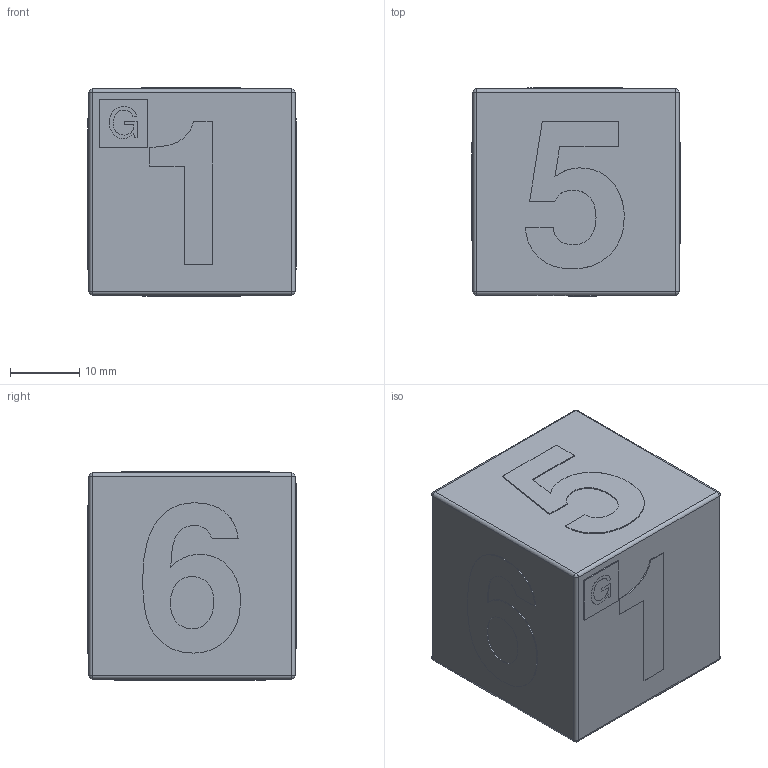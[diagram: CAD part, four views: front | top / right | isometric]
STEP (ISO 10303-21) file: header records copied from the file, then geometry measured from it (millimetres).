
FILE_DESCRIPTION(('Open CASCADE Model'),'2;1');
FILE_NAME('Open CASCADE Shape Model','2025-09-14T20:47:13',('Author'),( 'Open CASCADE'),'Open CASCADE STEP processor 7.8','Open CASCADE 7.8' ,'Unknown');
FILE_SCHEMA(('AUTOMOTIVE_DESIGN { 1 0 10303 214 1 1 1 1 }'));
Length unit declared in the file: millimetre
Products named in the file (20): 9c05f492-91a3-11f0-88d2-1c1b0deae66b; 9c05f640-91a3-11f0-88d2-1c1b0deae66b; 9c05f640-91a3-11f0-88d2-1c1b0deae66b_part; 9c096438-91a3-11f0-88d2-1c1b0deae66b; 9c096438-91a3-11f0-88d2-1c1b0deae66b_part; 9c0b5824-91a3-11f0-88d2-1c1b0deae66b; 9c0b5824-91a3-11f0-88d2-1c1b0deae66b_part; 9c0cea54-91a3-11f0-88d2-1c1b0deae66b; 9c0cea54-91a3-11f0-88d2-1c1b0deae66b_part; 9c0ecc52-91a3-11f0-88d2-1c1b0deae66b; 9c0ecc52-91a3-11f0-88d2-1c1b0deae66b_part; 9c10400a-91a3-11f0-88d2-1c1b0deae66b; 9c10400a-91a3-11f0-88d2-1c1b0deae66b_part; 9c120c96-91a3-11f0-88d2-1c1b0deae66b; 9c120c96-91a3-11f0-88d2-1c1b0deae66b_part; 9c200198-91a3-11f0-88d2-1c1b0deae66b; 9c200198-91a3-11f0-88d2-1c1b0deae66b_part; 9c20030a-91a3-11f0-88d2-1c1b0deae66b; 9c20030a-91a3-11f0-88d2-1c1b0deae66b_part
Assembly tree (19 placements, depth 4):
  9c05f492-91a3-11f0-88d2-1c1b0deae66b
    9c05f492-91a3-11f0-88d2-1c1b0deae66b
      9c05f640-91a3-11f0-88d2-1c1b0deae66b
        9c05f640-91a3-11f0-88d2-1c1b0deae66b_part
      9c096438-91a3-11f0-88d2-1c1b0deae66b
        9c096438-91a3-11f0-88d2-1c1b0deae66b_part
      9c0b5824-91a3-11f0-88d2-1c1b0deae66b
        9c0b5824-91a3-11f0-88d2-1c1b0deae66b_part
      9c0cea54-91a3-11f0-88d2-1c1b0deae66b
        9c0cea54-91a3-11f0-88d2-1c1b0deae66b_part
      9c0ecc52-91a3-11f0-88d2-1c1b0deae66b
        9c0ecc52-91a3-11f0-88d2-1c1b0deae66b_part
      9c10400a-91a3-11f0-88d2-1c1b0deae66b
        9c10400a-91a3-11f0-88d2-1c1b0deae66b_part
      9c120c96-91a3-11f0-88d2-1c1b0deae66b
        9c120c96-91a3-11f0-88d2-1c1b0deae66b_part
      9c200198-91a3-11f0-88d2-1c1b0deae66b
        9c200198-91a3-11f0-88d2-1c1b0deae66b_part
      9c20030a-91a3-11f0-88d2-1c1b0deae66b
        9c20030a-91a3-11f0-88d2-1c1b0deae66b_part
Bounding box: 30 x 30 x 30 mm (x, y, z)
Volume: 26334.6 mm3; surface area: 7386.8 mm2
Topology: 9 solids, 9 shells, 256 faces, 698 edges, 452 vertices
Faces by surface type: extrusion 160, plane 76, cylinder 12, sphere 8
Entity records: 17535 total; most frequent: CARTESIAN_POINT 4430, DIRECTION 1814, VECTOR 1534, ORIENTED_EDGE 1380, PCURVE 1380, DEFINITIONAL_REPRESENTATION 1380, LINE 1374, B_SPLINE_CURVE_WITH_KNOTS 832
